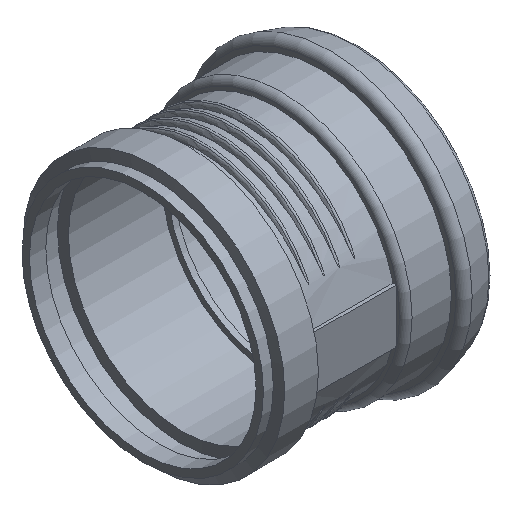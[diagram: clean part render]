
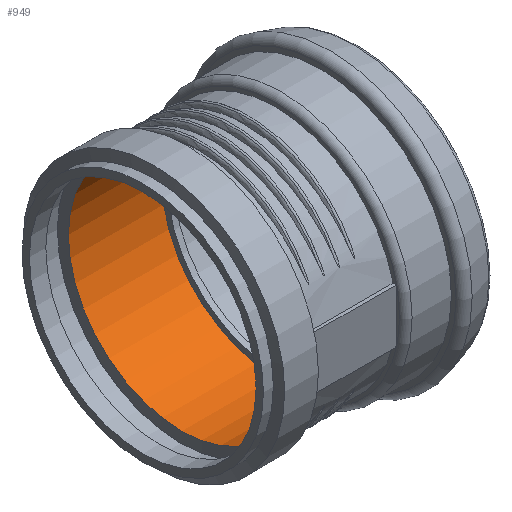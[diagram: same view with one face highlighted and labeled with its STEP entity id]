
A CAD part, isometric view. The second image highlights one B-rep face of the part: STEP entity #949.
In plain terms, the highlighted cylindrical face has radius 63.2 mm (diameter 126.4 mm), a full revolution.
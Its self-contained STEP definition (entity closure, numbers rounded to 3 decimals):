
#187=FACE_BOUND($,#309,.T.);
#221=FACE_OUTER_BOUND($,#308,.T.);
#308=EDGE_LOOP($,(#741));
#309=EDGE_LOOP($,(#742));
#375=CIRCLE($,#1040,63.2);
#376=CIRCLE($,#1041,63.2);
#485=VERTEX_POINT($,#2319);
#486=VERTEX_POINT($,#2321);
#587=EDGE_CURVE($,#485,#485,#375,.T.);
#588=EDGE_CURVE($,#486,#486,#376,.T.);
#741=ORIENTED_EDGE($,*,*,#587,.F.);
#742=ORIENTED_EDGE($,*,*,#588,.T.);
#854=CYLINDRICAL_SURFACE($,#1039,63.2);
#949=ADVANCED_FACE($,(#221,#187),#854,.F.);
#1039=AXIS2_PLACEMENT_3D($,#2318,#1219,#1220);
#1040=AXIS2_PLACEMENT_3D($,#2320,#1221,#1222);
#1041=AXIS2_PLACEMENT_3D($,#2322,#1223,#1224);
#1219=DIRECTION('center_axis',(1.,0.,0.));
#1220=DIRECTION('ref_axis',(0.,1.,0.));
#1221=DIRECTION('center_axis',(1.,0.,0.));
#1222=DIRECTION('ref_axis',(0.,1.,0.));
#1223=DIRECTION('center_axis',(1.,0.,0.));
#1224=DIRECTION('ref_axis',(0.,1.,0.));
#2318=CARTESIAN_POINT('Origin',(26.079,0.,0.));
#2319=CARTESIAN_POINT('',(0.,63.2,0.));
#2320=CARTESIAN_POINT('Origin',(0.,0.,0.));
#2321=CARTESIAN_POINT('',(52.159,63.2,0.));
#2322=CARTESIAN_POINT('Origin',(52.159,0.,0.));
